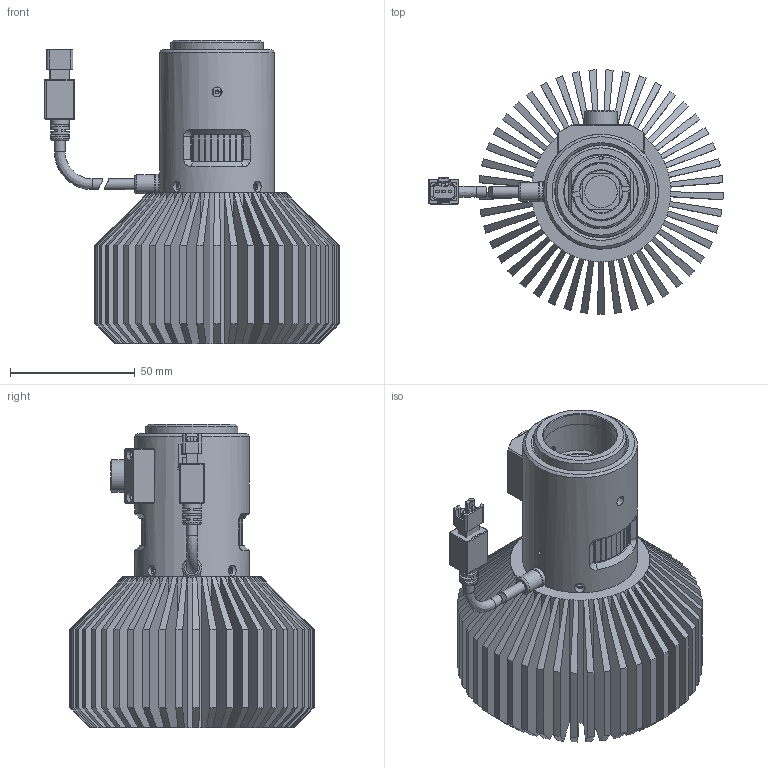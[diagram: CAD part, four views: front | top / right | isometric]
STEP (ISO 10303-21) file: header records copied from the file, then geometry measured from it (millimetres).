
FILE_DESCRIPTION (( 'STEP AP203' ), '1' );
FILE_NAME ('OPT-SLS10-X-V1.1尨砩芞.STEP', '2025-02-12T00:48:11', ( '' ), ( '' ), 'SwSTEP 2.0', 'SolidWorks 2016', '' );
FILE_SCHEMA (( 'CONFIG_CONTROL_DESIGN' ));
Length unit declared in the file: millimetre
Products named in the file (1): OPT-SLS10-X-V1.1尨砩芞
Bounding box: 118.09 x 97.96 x 121.77 mm (x, y, z)
Surface area: 152670.9 mm2 (no closed solid volume)
Topology: 0 solids, 9 shells, 896 faces, 2412 edges, 1541 vertices
Faces by surface type: plane 424, cylinder 301, cone 141, bspline 28, torus 2
Full cylindrical faces by diameter (mm): 1.6 x9, 2 x4, 2.4 x8, 2.5 x4, 3 x3, 4 x1, 4.3 x3, 6.5 x1, 7 x1, 7.5 x2, 8 x1, 12.9 x1, 13 x2, 14.8 x1, 15 x1, 17 x1, 29.4 x1, 31 x1, 37 x1, 37.2 x1, 37.4 x2, 39.2 x2, 40 x3, 40.761 x1, 41 x1, 42 x1, 42.1 x1, 46 x1
Entity records: 30991 total; most frequent: CARTESIAN_POINT 9650, ORIENTED_EDGE 4455, DIRECTION 4192, EDGE_CURVE 2263, AXIS2_PLACEMENT_3D 1498, VERTEX_POINT 1497, LINE 1196, VECTOR 1196
